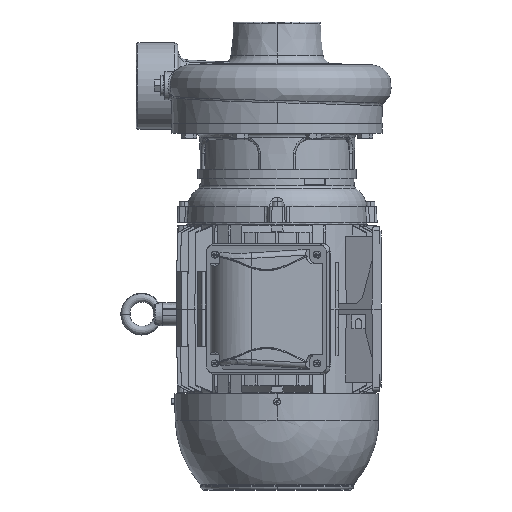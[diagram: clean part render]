
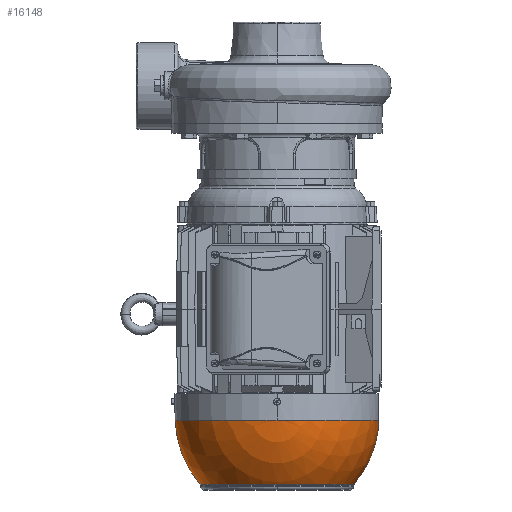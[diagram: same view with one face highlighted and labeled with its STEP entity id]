
A CAD part, left-side view. The second image highlights one B-rep face of the part: STEP entity #16148.
In plain terms, the highlighted spherical face has radius 109.545 mm.
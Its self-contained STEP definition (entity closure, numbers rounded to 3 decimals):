
#304 = CARTESIAN_POINT ( 'NONE',  ( 0., 0., -116.55 ) ) ;
#366 = CIRCLE ( 'NONE', #6835, 109.545 ) ;
#514 = CARTESIAN_POINT ( 'NONE',  ( 0., 0., -119.418 ) ) ;
#1781 = DIRECTION ( 'NONE',  ( 0., 1., 0. ) ) ;
#2569 = DIRECTION ( 'NONE',  ( -1., 0., 0. ) ) ;
#5293 = CIRCLE ( 'NONE', #10943, 82.833 ) ;
#5425 = EDGE_CURVE ( 'NONE', #28637, #36534, #13116, .T. ) ;
#6068 = CARTESIAN_POINT ( 'NONE',  ( 0., -108.945, -116.55 ) ) ;
#6242 = AXIS2_PLACEMENT_3D ( 'NONE', #514, #30383, #31133 ) ;
#6835 = AXIS2_PLACEMENT_3D ( 'NONE', #304, #7691, #42597 ) ;
#6859 = CIRCLE ( 'NONE', #14137, 11.444 ) ;
#7069 = ORIENTED_EDGE ( 'NONE', *, *, #33560, .T. ) ;
#7315 = DIRECTION ( 'NONE',  ( 0., 1., 0. ) ) ;
#7691 = DIRECTION ( 'NONE',  ( -1., 0., 0. ) ) ;
#8504 = CARTESIAN_POINT ( 'NONE',  ( 0., 0., -188.234 ) ) ;
#9616 = CARTESIAN_POINT ( 'NONE',  ( 0., 82.833, -188.234 ) ) ;
#10427 = DIRECTION ( 'NONE',  ( -1., 0., 0. ) ) ;
#10943 = AXIS2_PLACEMENT_3D ( 'NONE', #33670, #29173, #2569 ) ;
#11156 = ORIENTED_EDGE ( 'NONE', *, *, #5425, .T. ) ;
#11309 = CARTESIAN_POINT ( 'NONE',  ( 0., 0., -116.55 ) ) ;
#11662 = CARTESIAN_POINT ( 'NONE',  ( -109.507, 0., -119.418 ) ) ;
#13116 = CIRCLE ( 'NONE', #22036, 109.507 ) ;
#13184 = EDGE_CURVE ( 'NONE', #27948, #15449, #44202, .T. ) ;
#14137 = AXIS2_PLACEMENT_3D ( 'NONE', #6068, #1781, #16778 ) ;
#14188 = CARTESIAN_POINT ( 'NONE',  ( 0., 0., -119.418 ) ) ;
#15449 = VERTEX_POINT ( 'NONE', #36956 ) ;
#15462 = EDGE_CURVE ( 'NONE', #20465, #25799, #5293, .T. ) ;
#16148 = ADVANCED_FACE ( 'NONE', ( #18505 ), #18746, .T. ) ;
#16778 = DIRECTION ( 'NONE',  ( -1., 0., 0. ) ) ;
#18505 = FACE_OUTER_BOUND ( 'NONE', #20564, .T. ) ;
#18746 = SPHERICAL_SURFACE ( 'NONE', #35271, 109.545 ) ;
#20465 = VERTEX_POINT ( 'NONE', #48908 ) ;
#20564 = EDGE_LOOP ( 'NONE', ( #40248, #39037, #11156, #46305, #7069, #35158, #22228 ) ) ;
#20798 = CIRCLE ( 'NONE', #35240, 82.833 ) ;
#22036 = AXIS2_PLACEMENT_3D ( 'NONE', #14188, #44560, #10427 ) ;
#22228 = ORIENTED_EDGE ( 'NONE', *, *, #26853, .F. ) ;
#24217 = DIRECTION ( 'NONE',  ( 0., 0., -1. ) ) ;
#25799 = VERTEX_POINT ( 'NONE', #9616 ) ;
#26496 = DIRECTION ( 'NONE',  ( 1., 0., 0. ) ) ;
#26568 = CARTESIAN_POINT ( 'NONE',  ( 0., 0., -116.55 ) ) ;
#26617 = CARTESIAN_POINT ( 'NONE',  ( -11.079, -108.945, -119.418 ) ) ;
#26853 = EDGE_CURVE ( 'NONE', #15449, #20465, #20798, .T. ) ;
#27948 = VERTEX_POINT ( 'NONE', #39076 ) ;
#28047 = AXIS2_PLACEMENT_3D ( 'NONE', #11309, #26496, #38582 ) ;
#28637 = VERTEX_POINT ( 'NONE', #26617 ) ;
#29173 = DIRECTION ( 'NONE',  ( 0., 0., -1. ) ) ;
#29612 = CARTESIAN_POINT ( 'NONE',  ( 0., 109.507, -119.418 ) ) ;
#30383 = DIRECTION ( 'NONE',  ( 0., 0., -1. ) ) ;
#31133 = DIRECTION ( 'NONE',  ( -1., 0., 0. ) ) ;
#33560 = EDGE_CURVE ( 'NONE', #44613, #25799, #366, .T. ) ;
#33670 = CARTESIAN_POINT ( 'NONE',  ( 0., 0., -188.234 ) ) ;
#35158 = ORIENTED_EDGE ( 'NONE', *, *, #15462, .F. ) ;
#35240 = AXIS2_PLACEMENT_3D ( 'NONE', #8504, #24217, #47473 ) ;
#35271 = AXIS2_PLACEMENT_3D ( 'NONE', #26568, #41975, #7315 ) ;
#36534 = VERTEX_POINT ( 'NONE', #11662 ) ;
#36956 = CARTESIAN_POINT ( 'NONE',  ( 0., -82.833, -188.234 ) ) ;
#38582 = DIRECTION ( 'NONE',  ( 0., 1., 0. ) ) ;
#39037 = ORIENTED_EDGE ( 'NONE', *, *, #42884, .T. ) ;
#39076 = CARTESIAN_POINT ( 'NONE',  ( 0., -108.945, -127.994 ) ) ;
#40248 = ORIENTED_EDGE ( 'NONE', *, *, #13184, .F. ) ;
#40507 = EDGE_CURVE ( 'NONE', #36534, #44613, #49901, .T. ) ;
#41975 = DIRECTION ( 'NONE',  ( 1., 0., 0. ) ) ;
#42597 = DIRECTION ( 'NONE',  ( 0., 0., 1. ) ) ;
#42884 = EDGE_CURVE ( 'NONE', #27948, #28637, #6859, .T. ) ;
#44202 = CIRCLE ( 'NONE', #28047, 109.545 ) ;
#44560 = DIRECTION ( 'NONE',  ( 0., 0., -1. ) ) ;
#44613 = VERTEX_POINT ( 'NONE', #29612 ) ;
#46305 = ORIENTED_EDGE ( 'NONE', *, *, #40507, .T. ) ;
#47473 = DIRECTION ( 'NONE',  ( -1., 0., 0. ) ) ;
#48908 = CARTESIAN_POINT ( 'NONE',  ( -82.833, 0., -188.234 ) ) ;
#49901 = CIRCLE ( 'NONE', #6242, 109.507 ) ;
